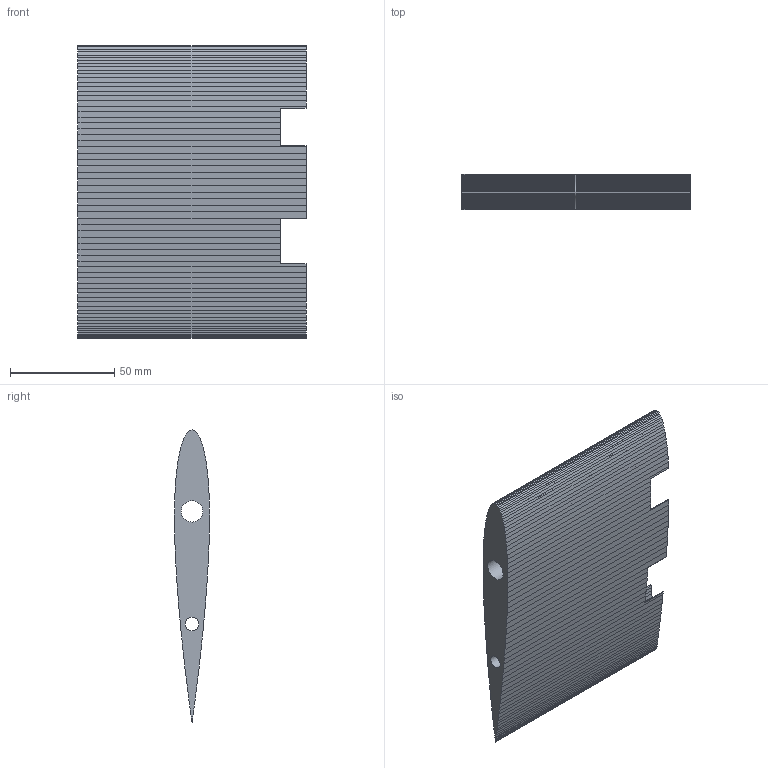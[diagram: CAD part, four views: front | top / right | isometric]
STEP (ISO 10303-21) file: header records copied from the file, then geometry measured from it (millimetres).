
FILE_DESCRIPTION(('Open CASCADE Model'),'2;1');
FILE_NAME('Open CASCADE Shape Model','2026-09-11T00:16:40',('Author'),( 'Open CASCADE'),'Open CASCADE STEP processor 7.9','Open CASCADE 7.9' ,'Unknown');
FILE_SCHEMA(('AUTOMOTIVE_DESIGN { 1 0 10303 214 1 1 1 1 }'));
Products named in the file (1): Open CASCADE STEP translator 7.9 15
Bounding box: 109.3 x 16.8 x 140 mm (x, y, z)
Volume: 28365.7 mm3; surface area: 77266.5 mm2
Topology: 1 solids, 4 shells, 744 faces, 2202 edges, 1468 vertices
Faces by surface type: plane 726, cylinder 18
Full cylindrical faces by diameter (mm): 6.3 x1, 7.5 x4, 10.3 x1, 11.5 x4
Entity records: 50486 total; most frequent: CARTESIAN_POINT 11591, DIRECTION 5490, ORIENTED_EDGE 4404, PCURVE 4404, DEFINITIONAL_REPRESENTATION 4404, LINE 3918, VECTOR 3918, B_SPLINE_CURVE_WITH_KNOTS 2616
